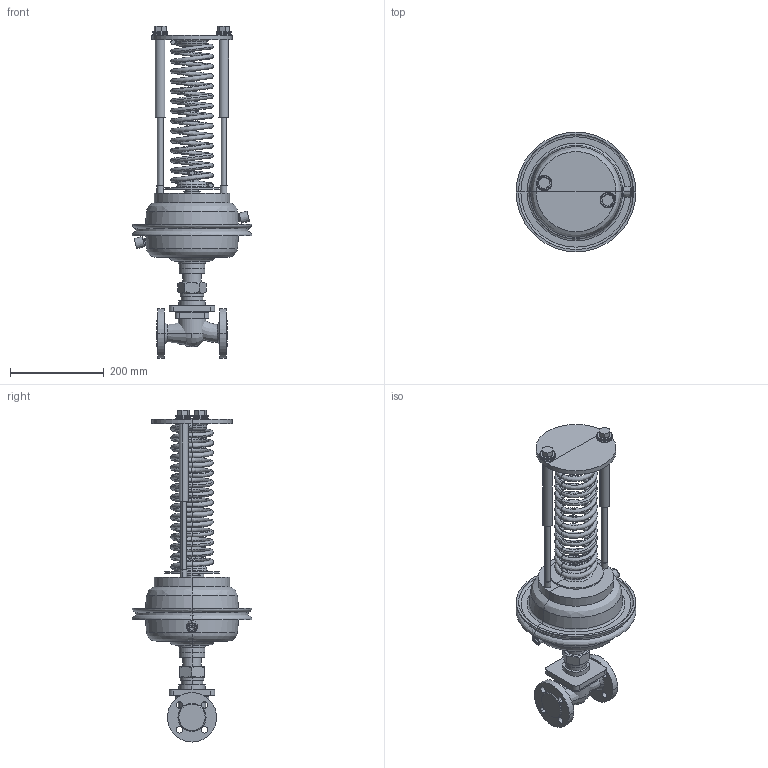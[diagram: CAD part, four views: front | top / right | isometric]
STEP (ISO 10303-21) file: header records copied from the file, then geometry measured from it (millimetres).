
FILE_DESCRIPTION(/* description */ (''),/* implementation_level */ '2;1');
FILE_NAME(/* name */ 'ETM_Регулятордавления_УРРД_НЗ_РД_DN20',/* time_stamp */ '2026-04-18T14:56:34+03:00',/* author */ (''),/* organization */ (''),/* preprocessor_version */ 'ST-DEVELOPER v20',/* originating_system */ '',/* authorisation */ '');
FILE_SCHEMA (('AP242_MANAGED_MODEL_BASED_3D_ENGINEERING_MIM_LF { 1 0 10303 442 1 1 4 }'));
Length unit declared in the file: millimetre
Products named in the file (13): TopLevelAssembly; Выдавливание; Переход; Выдавливание_
1; Переход_1; Переход_2; Переход_3; Выдавливание_
2; Объемная геометрия 
присоединена; Выдавливание_
3; Объемная геометрия 
присоединена_1; Выдавливание_
4; Пружина желтая
Assembly tree (12 placements, depth 2):
  TopLevelAssembly
    Выдавливание
    Переход
    Выдавливание_
1
    Переход_1
    Переход_2
    Переход_3
    Выдавливание_
2
    Объемная геометрия 
присоединена
    Выдавливание_
3
    Объемная геометрия 
присоединена_1
    Выдавливание_
4
    Пружина желтая
Bounding box: 255.07 x 255.07 x 707.11 mm (x, y, z)
Volume: 5783588.5 mm3; surface area: 652340.7 mm2
Topology: 33 solids, 33 shells, 518 faces, 1066 edges, 552 vertices
Faces by surface type: plane 191, bspline 191, cylinder 126, cone 10
Entity records: 16909 total; most frequent: CARTESIAN_POINT 5879, DIRECTION 2328, ORIENTED_EDGE 2040, EDGE_CURVE 1020, AXIS2_PLACEMENT_3D 980, CIRCLE 627, VERTEX_POINT 552, EDGE_LOOP 538
